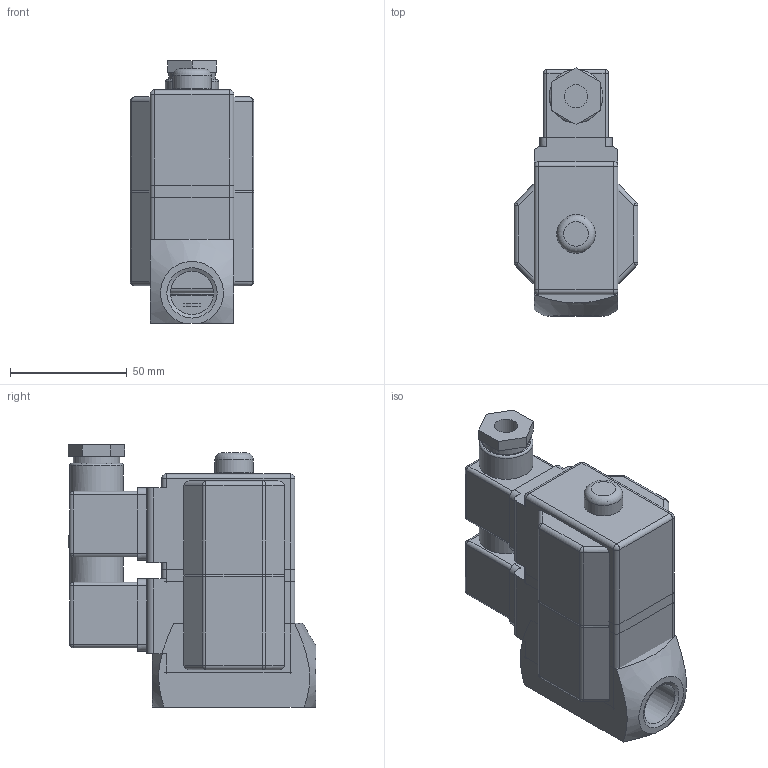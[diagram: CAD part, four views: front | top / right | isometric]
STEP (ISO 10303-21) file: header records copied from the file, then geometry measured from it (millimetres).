
FILE_DESCRIPTION( ( 'Unknown' ), '1' );
FILE_NAME( 'D:/Wyroby/Widoki gabarytowe/Zawory ZECA/ZECA_15/ZECA_15.stp', 'Unknown', ( 'Unknown' ), ( 'Unknown' ), 'XStep 1.0', 'Unknown', ' ' );
FILE_SCHEMA( ( 'CONFIG_CONTROL_DESIGN' ) );
Length unit declared in the file: millimetre
Products named in the file (20): Assem1; Wb_141_04_00; Wa_141_04_00_002; Wa_141_04_00_009; Wa_141_04_00_005; Wb_141_04_00_003; Wb_141_04_00_004; Wb_141_01_01; Wb_141_01_00_004; Oring16x2彡i從i黎y; A_016_podk³adka_sprê¿ynuj¹ca_8; N_006M8; Os³ona_na_nakrêtkê; Oring30x2彡i從i黎y; Wb_141_01_00_005彡i從i黎a21,75; Cewka_UMO
Bounding box: 53 x 106.12 x 112.5 mm (x, y, z)
Volume: 559358.4 mm3; surface area: 155849.3 mm2
Topology: 53 solids, 53 shells, 854 faces, 1834 edges, 1099 vertices
Faces by surface type: plane 352, cylinder 280, cone 156, sphere 40, torus 23, bspline 3
Full cylindrical faces by diameter (mm): 3.242 x6, 5 x3, 6 x3, 6.647 x6, 7 x2, 8 x8, 10 x2, 11 x3, 12 x6, 12.8 x6, 13 x15, 14 x16, 14.9 x3, 15 x9, 16.5 x3, 17 x12, 17.8 x3, 18 x3, 18.531 x6, 18.917 x3, 20 x5, 20.5 x6, 21 x3, 23 x2, 25 x2, 30 x6, 30.376 x3, 32 x3, 33.4 x6, 36 x3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
Entity records: 13772 total; most frequent: CARTESIAN_POINT 6304, DIRECTION 1477, ORIENTED_EDGE 1126, AXIS2_PLACEMENT_3D 627, EDGE_CURVE 563, EDGE_LOOP 461, VERTEX_POINT 392, FACE_OUTER_BOUND 389
